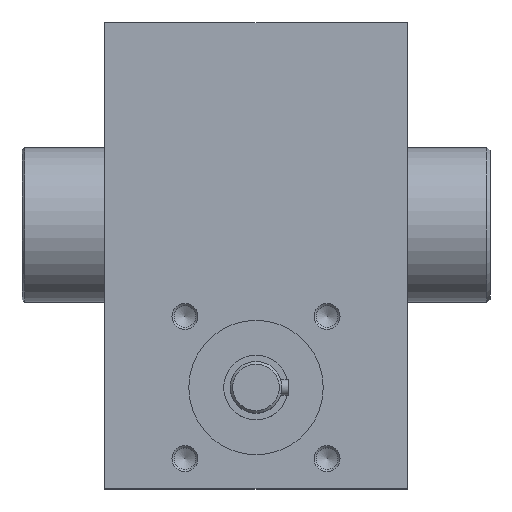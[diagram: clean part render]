
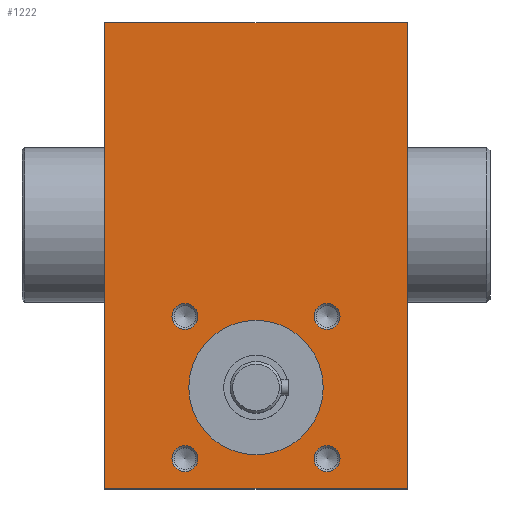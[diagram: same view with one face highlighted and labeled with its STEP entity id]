
A CAD part, top view. The second image highlights one B-rep face of the part: STEP entity #1222.
In plain terms, the highlighted planar face has unit normal (0, 0, 1).
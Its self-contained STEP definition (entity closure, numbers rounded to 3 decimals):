
#143=FACE_BOUND('',#426,.T.);
#144=FACE_BOUND('',#427,.T.);
#145=FACE_BOUND('',#428,.T.);
#146=FACE_BOUND('',#429,.T.);
#147=FACE_BOUND('',#430,.T.);
#203=LINE('',#1951,#243);
#207=LINE('',#1969,#247);
#211=LINE('',#2031,#251);
#212=LINE('',#2032,#252);
#243=VECTOR('',#1533,180.);
#247=VECTOR('',#1549,117.);
#251=VECTOR('',#1617,180.);
#252=VECTOR('',#1618,117.);
#300=FACE_OUTER_BOUND('',#425,.T.);
#425=EDGE_LOOP('',(#955,#956,#957,#958));
#426=EDGE_LOOP('',(#959));
#427=EDGE_LOOP('',(#960));
#428=EDGE_LOOP('',(#961));
#429=EDGE_LOOP('',(#962));
#430=EDGE_LOOP('',(#963));
#575=CIRCLE('',#1337,26.);
#585=CIRCLE('',#1357,5.);
#586=CIRCLE('',#1358,5.);
#587=CIRCLE('',#1359,5.);
#588=CIRCLE('',#1360,5.);
#654=VERTEX_POINT('',#1948);
#655=VERTEX_POINT('',#1950);
#663=VERTEX_POINT('',#1967);
#673=VERTEX_POINT('',#2000);
#683=VERTEX_POINT('',#2030);
#684=VERTEX_POINT('',#2033);
#685=VERTEX_POINT('',#2035);
#686=VERTEX_POINT('',#2037);
#687=VERTEX_POINT('',#2039);
#769=EDGE_CURVE('',#655,#654,#203,.T.);
#778=EDGE_CURVE('',#654,#663,#207,.T.);
#790=EDGE_CURVE('',#673,#673,#575,.T.);
#800=EDGE_CURVE('',#663,#683,#211,.T.);
#801=EDGE_CURVE('',#683,#655,#212,.T.);
#802=EDGE_CURVE('',#684,#684,#585,.T.);
#803=EDGE_CURVE('',#685,#685,#586,.T.);
#804=EDGE_CURVE('',#686,#686,#587,.T.);
#805=EDGE_CURVE('',#687,#687,#588,.T.);
#955=ORIENTED_EDGE('',*,*,#769,.T.);
#956=ORIENTED_EDGE('',*,*,#778,.T.);
#957=ORIENTED_EDGE('',*,*,#800,.T.);
#958=ORIENTED_EDGE('',*,*,#801,.T.);
#959=ORIENTED_EDGE('',*,*,#802,.F.);
#960=ORIENTED_EDGE('',*,*,#803,.F.);
#961=ORIENTED_EDGE('',*,*,#804,.F.);
#962=ORIENTED_EDGE('',*,*,#805,.F.);
#963=ORIENTED_EDGE('',*,*,#790,.F.);
#1177=PLANE('',#1356);
#1222=ADVANCED_FACE('',(#300,#143,#144,#145,#146,#147),#1177,.T.);
#1337=AXIS2_PLACEMENT_3D('',#2001,#1577,#1578);
#1356=AXIS2_PLACEMENT_3D('',#2029,#1615,#1616);
#1357=AXIS2_PLACEMENT_3D('',#2034,#1619,#1620);
#1358=AXIS2_PLACEMENT_3D('',#2036,#1621,#1622);
#1359=AXIS2_PLACEMENT_3D('',#2038,#1623,#1624);
#1360=AXIS2_PLACEMENT_3D('',#2040,#1625,#1626);
#1533=DIRECTION('',(0.,-1.,0.));
#1549=DIRECTION('',(1.,0.,0.));
#1577=DIRECTION('center_axis',(0.,0.,1.));
#1578=DIRECTION('ref_axis',(1.,0.,0.));
#1615=DIRECTION('center_axis',(0.,0.,1.));
#1616=DIRECTION('ref_axis',(1.,0.,0.));
#1617=DIRECTION('',(0.,1.,0.));
#1618=DIRECTION('',(-1.,0.,0.));
#1619=DIRECTION('center_axis',(0.,0.,1.));
#1620=DIRECTION('ref_axis',(1.,0.,0.));
#1621=DIRECTION('center_axis',(0.,0.,1.));
#1622=DIRECTION('ref_axis',(1.,0.,0.));
#1623=DIRECTION('center_axis',(0.,0.,1.));
#1624=DIRECTION('ref_axis',(1.,0.,0.));
#1625=DIRECTION('center_axis',(0.,0.,1.));
#1626=DIRECTION('ref_axis',(1.,0.,0.));
#1948=CARTESIAN_POINT('',(0.,-102.,72.5));
#1950=CARTESIAN_POINT('',(0.,78.,72.5));
#1951=CARTESIAN_POINT('',(0.,78.,72.5));
#1967=CARTESIAN_POINT('',(117.,-102.,72.5));
#1969=CARTESIAN_POINT('',(0.,-102.,72.5));
#2000=CARTESIAN_POINT('',(84.5,-63.,72.5));
#2001=CARTESIAN_POINT('Origin',(58.5,-63.,72.5));
#2029=CARTESIAN_POINT('Origin',(0.,-102.,72.5));
#2030=CARTESIAN_POINT('',(117.,78.,72.5));
#2031=CARTESIAN_POINT('',(117.,-102.,72.5));
#2032=CARTESIAN_POINT('',(117.,78.,72.5));
#2033=CARTESIAN_POINT('',(36.,-35.5,72.5));
#2034=CARTESIAN_POINT('Origin',(31.,-35.5,72.5));
#2035=CARTESIAN_POINT('',(91.,-35.5,72.5));
#2036=CARTESIAN_POINT('Origin',(86.,-35.5,72.5));
#2037=CARTESIAN_POINT('',(91.,-90.5,72.5));
#2038=CARTESIAN_POINT('Origin',(86.,-90.5,72.5));
#2039=CARTESIAN_POINT('',(36.,-90.5,72.5));
#2040=CARTESIAN_POINT('Origin',(31.,-90.5,72.5));
